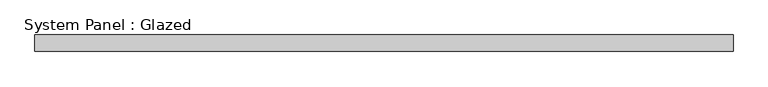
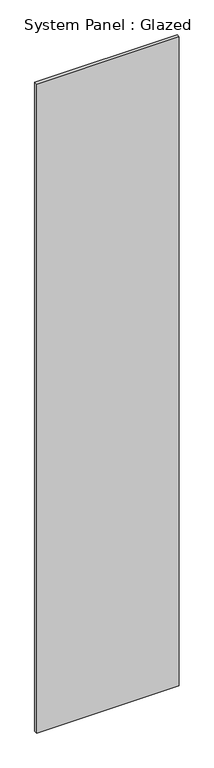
"""IFC4 building model written with IfcOpenShell, lengths in millimetres: plate geometry, System Panel : Glazed."""

from ifc_helpers import new_model, si_unit, origin, origin_with_axes, place, context, project, spatial, polyline, outline, extrude, source, transform, mapped, element, save


def system_panel_glazed_ee4c52bc(model_context):
    return source(origin(), model_context, "Body", "SweptSolid", [
        extrude(outline(polyline([(527.8853438, -12.5), (-527.8853438, -12.5), (-527.8853438, 12.5), (527.8853438, 12.5), (527.8853438, -12.5)])), origin_with_axes(), (0.0, 0.0, 1.0), 5080.0),
    ])


if __name__ == "__main__":
    model = new_model("IFC4")
    model_context = context("Model", 3, world=origin())
    ifc_project = project(units=[si_unit("LENGTHUNIT", "METRE", prefix="MILLI")], contexts=[model_context])
    site = spatial("IfcSite", under=ifc_project)
    building = spatial("IfcBuilding", under=site)
    placement = place(None, origin())
    system_panel_glazed_shape = system_panel_glazed_ee4c52bc(model_context)
    element("IfcPlate", 1, ObjectType="System Panel : Glazed", at=placement, inside=building, context=model_context, shape_type="MappedRepresentation", body=[
        mapped(system_panel_glazed_shape, transform((0.0, 0.0, 0.0), x_axis=(1.0, 0.0, 0.0), y_axis=(0.0, 1.0, 0.0), z_axis=(0.0, 0.0, 1.0))),
    ])
    save(model, "model.ifc")
